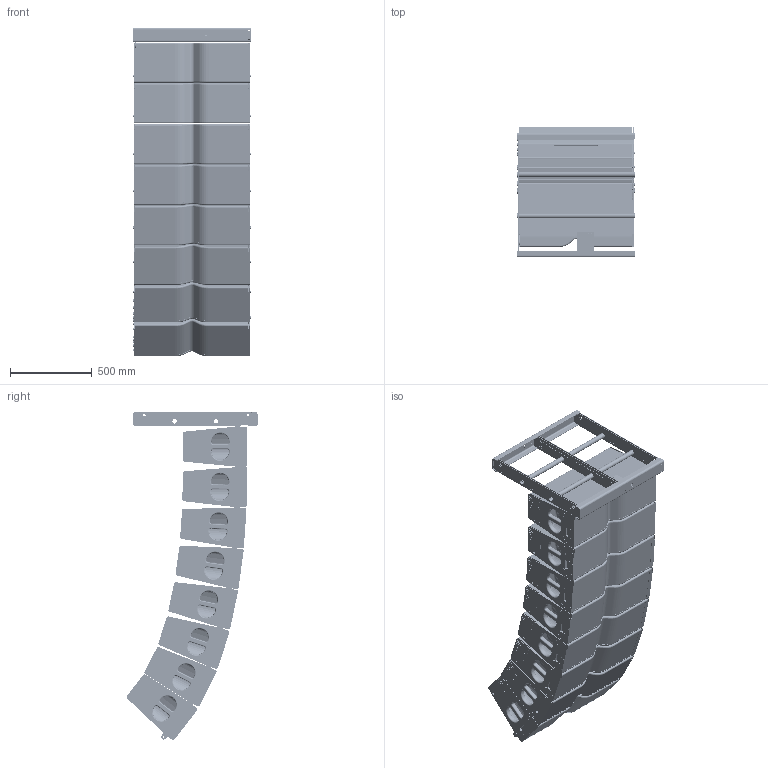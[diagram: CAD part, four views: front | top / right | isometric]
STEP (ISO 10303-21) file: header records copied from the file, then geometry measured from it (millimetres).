
FILE_DESCRIPTION(/* description */ (''),/* implementation_level */ '2;1');
FILE_NAME(/* name */ 'LA28 8 Box ARRAY v2.step',/* time_stamp */ '2023-01-22T00:04:50-08:00',/* author */ (''),/* organization */ (''),/* preprocessor_version */ 'ST-DEVELOPER v19.2',/* originating_system */ 'Autodesk Translation Framework v11.17.0.187',/* authorisation */ '');
FILE_SCHEMA (('AUTOMOTIVE_DESIGN { 1 0 10303 214 3 1 1 }'));
Length unit declared in the file: inch
Products named in the file (10): LA28 8 Box ARRAY; LA28 RF1 Sheet Metal Assembly; LA28RF1 Front Rear C Channel^la28RF1 SHEET METAL ASSEMBLY; LA28RF1 Center Bar^la28RF1 SHEET METAL ASSEMBLY; AL28RF1 Outer Bar^la28RF1 SHEET METAL ASSEMBLY; Inclinometer Mount Plate^la28RF1 SHEET METAL ASSEMBLY; Stabilizing Tube^la28RF1 SHEET METAL ASSEMBLY; Rear Connection Arm^la28RF1 SHEET METAL ASSEMBLY; LA18 LA28 Front Connection Tongue^la28RF1 SHEET METAL ASSEMBLY; LA28 TOUR BLOCK
Assembly tree (24 placements, depth 3):
  LA28 8 Box ARRAY
    LA28 RF1 Sheet Metal Assembly
      LA28RF1 Front Rear C Channel^la28RF1 SHEET METAL ASSEMBLY  x2
      LA28RF1 Center Bar^la28RF1 SHEET METAL ASSEMBLY  x2
      AL28RF1 Outer Bar^la28RF1 SHEET METAL ASSEMBLY  x4
      Inclinometer Mount Plate^la28RF1 SHEET METAL ASSEMBLY
      Stabilizing Tube^la28RF1 SHEET METAL ASSEMBLY  x2
      Rear Connection Arm^la28RF1 SHEET METAL ASSEMBLY  x2
      LA18 LA28 Front Connection Tongue^la28RF1 SHEET METAL ASSEMBLY  x2
    LA28 TOUR BLOCK  x8
Bounding box: 726.76 x 802.83 x 2012.09 mm (x, y, z)
Volume: 463058385.5 mm3; surface area: 11486755.5 mm2
Topology: 23 solids, 23 shells, 3969 faces, 9801 edges, 6310 vertices
Faces by surface type: plane 1790, cylinder 1699, torus 432, bspline 48
Full cylindrical faces by diameter (mm): 6.35 x4, 8.319 x48, 8.382 x474, 8.7 x16, 13 x112, 16.51 x52, 17 x96, 19.05 x2, 22.86 x2, 25.4 x8, 27.178 x2, 31.75 x2, 32.004 x12
Entity records: 22813 total; most frequent: CARTESIAN_POINT 4181, DIRECTION 3932, ORIENTED_EDGE 3624, EDGE_CURVE 1812, AXIS2_PLACEMENT_3D 1407, VERTEX_POINT 1168, LINE 1118, VECTOR 1118
